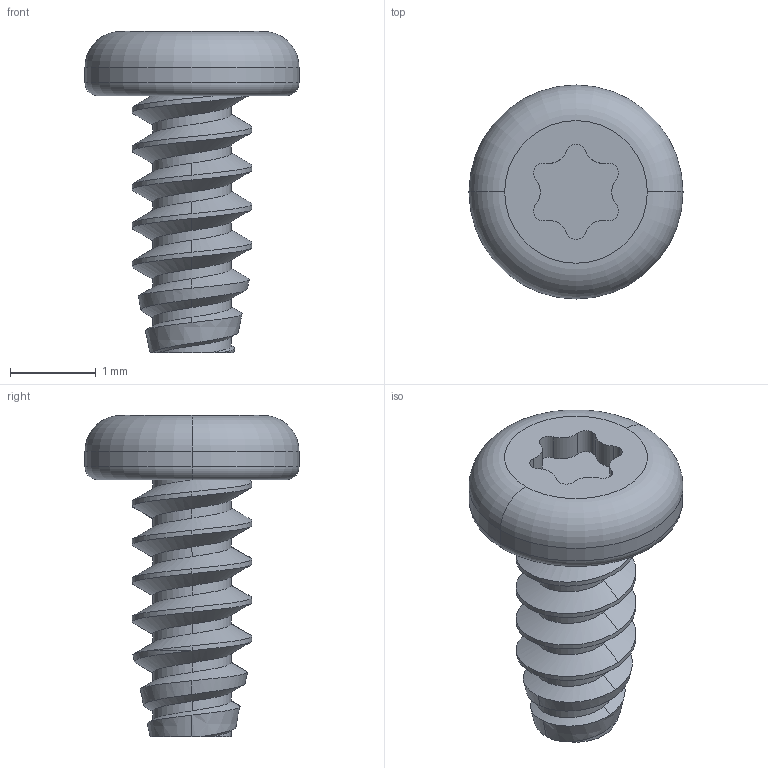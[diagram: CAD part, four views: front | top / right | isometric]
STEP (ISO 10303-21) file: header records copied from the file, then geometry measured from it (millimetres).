
FILE_DESCRIPTION (( 'STEP AP203' ), '1' );
FILE_NAME ('M14-30-P-SS-PT-USMICROSCREW.STEP', '2014-12-29T23:14:18', ( '' ), ( '' ), 'SwSTEP 2.0', 'SolidWorks 2014', '' );
FILE_SCHEMA (( 'CONFIG_CONTROL_DESIGN' ));
Length unit declared in the file: millimetre
Products named in the file (1): M14-30-P-SS-PT-USMICROSCREW
Bounding box: 2.5 x 2.5 x 3.75 mm (x, y, z)
Volume: 6.2 mm3; surface area: 33.7 mm2
Topology: 2 solids, 2 shells, 74 faces, 200 edges, 131 vertices
Faces by surface type: cylinder 44, bspline 14, cone 6, plane 6, torus 4
Entity records: 3271 total; most frequent: CARTESIAN_POINT 1588, ORIENTED_EDGE 400, DIRECTION 284, EDGE_CURVE 200, VERTEX_POINT 131, AXIS2_PLACEMENT_3D 111, EDGE_LOOP 75, ADVANCED_FACE 74
